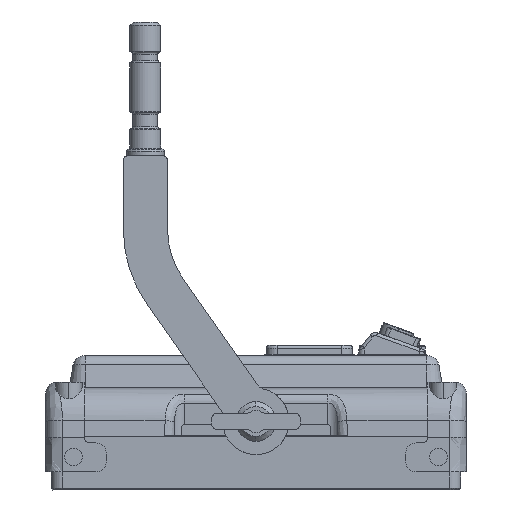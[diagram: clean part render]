
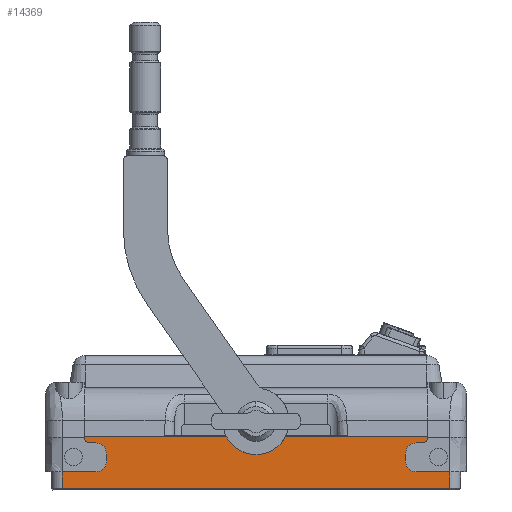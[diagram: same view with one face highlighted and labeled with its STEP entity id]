
A CAD part, left-side view. The second image highlights one B-rep face of the part: STEP entity #14369.
In plain terms, the highlighted planar face has unit normal (-1, 0, 0).
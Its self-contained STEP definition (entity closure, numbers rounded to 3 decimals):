
#531=DIRECTION('',(0.,1.,0.));
#532=VECTOR('',#531,30.);
#533=CARTESIAN_POINT('',(-340.,145.,-24.6));
#534=LINE('',#533,#532);
#556=DIRECTION('',(0.,0.,-1.));
#557=VECTOR('',#556,6.1);
#558=CARTESIAN_POINT('',(-340.,-135.,-8.5));
#559=LINE('',#558,#557);
#560=CARTESIAN_POINT('',(-340.,-145.,-14.6));
#561=DIRECTION('',(-1.,0.,0.));
#562=DIRECTION('',(0.,1.,0.));
#563=AXIS2_PLACEMENT_3D('',#560,#561,#562);
#565=DIRECTION('',(0.,-1.,0.));
#566=VECTOR('',#565,30.);
#567=CARTESIAN_POINT('',(-340.,-145.,-24.6));
#568=LINE('',#567,#566);
#569=DIRECTION('',(0.,1.,0.));
#570=VECTOR('',#569,350.);
#571=CARTESIAN_POINT('',(-340.,-175.,
-39.5));
#572=LINE('',#571,#570);
#573=DIRECTION('',(0.,0.,1.));
#574=VECTOR('',#573,14.9);
#575=CARTESIAN_POINT('',(-340.,175.,-39.5));
#576=LINE('',#575,#574);
#577=CARTESIAN_POINT('',(-340.,145.,-14.6));
#578=DIRECTION('',(-1.,0.,0.));
#579=DIRECTION('',(0.,0.,-1.));
#580=AXIS2_PLACEMENT_3D('',#577,#578,#579);
#582=CARTESIAN_POINT('',(-340.,145.,-8.5));
#583=DIRECTION('',(-1.,0.,0.));
#584=DIRECTION('',(0.,-1.,0.));
#585=AXIS2_PLACEMENT_3D('',#582,#583,#584);
#587=CARTESIAN_POINT('',(-340.,150.,6.5));
#588=DIRECTION('',(1.,0.,0.));
#589=DIRECTION('',(0.,0.,-1.));
#590=AXIS2_PLACEMENT_3D('',#587,#588,#589);
#592=DIRECTION('',(0.,0.,1.));
#593=VECTOR('',#592,0.873);
#594=CARTESIAN_POINT('',(-340.,155.,6.5));
#595=LINE('',#594,#593);
#596=CARTESIAN_POINT('',(-340.,-150.,6.5));
#597=DIRECTION('',(1.,0.,0.));
#598=DIRECTION('',(0.,-1.,0.));
#599=AXIS2_PLACEMENT_3D('',#596,#597,#598);
#601=DIRECTION('',(0.,1.,0.));
#602=VECTOR('',#601,5.);
#603=CARTESIAN_POINT('',(-340.,-150.,1.5));
#604=LINE('',#603,#602);
#605=CARTESIAN_POINT('',(-340.,-145.,-8.5));
#606=DIRECTION('',(-1.,0.,0.));
#607=DIRECTION('',(0.,0.,1.));
#608=AXIS2_PLACEMENT_3D('',#605,#606,#607);
#626=DIRECTION('',(0.,0.,1.));
#627=VECTOR('',#626,0.873);
#628=CARTESIAN_POINT('',(-340.,-155.,6.5));
#629=LINE('',#628,#627);
#657=DIRECTION('',(0.,1.,0.));
#658=VECTOR('',#657,310.);
#659=CARTESIAN_POINT('',(-340.,-155.,7.373));
#660=LINE('',#659,#658);
#3215=DIRECTION('',(0.,0.,-1.));
#3216=VECTOR('',#3215,6.1);
#3217=CARTESIAN_POINT('',(-340.,135.,-8.5));
#3218=LINE('',#3217,#3216);
#3231=DIRECTION('',(0.,-1.,0.));
#3232=VECTOR('',#3231,5.);
#3233=CARTESIAN_POINT('',(-340.,150.,1.5));
#3234=LINE('',#3233,#3232);
#10612=DIRECTION('',(0.,0.,1.));
#10613=VECTOR('',#10612,14.9);
#10614=CARTESIAN_POINT('',(-340.,-175.,
-39.5));
#10615=LINE('',#10614,#10613);
#11145=CARTESIAN_POINT('',(-340.,145.,-24.6));
#11146=VERTEX_POINT('',#11145);
#11147=CARTESIAN_POINT('',(-340.,175.,-24.6));
#11148=VERTEX_POINT('',#11147);
#11157=CARTESIAN_POINT('',(-340.,175.,-39.5));
#11158=VERTEX_POINT('',#11157);
#11165=CARTESIAN_POINT('',(-340.,-135.,-8.5));
#11166=CARTESIAN_POINT('',(-340.,-135.,-14.6));
#11167=VERTEX_POINT('',#11165);
#11168=VERTEX_POINT('',#11166);
#11169=CARTESIAN_POINT('',(-340.,-145.,-24.6));
#11170=VERTEX_POINT('',#11169);
#11171=CARTESIAN_POINT('',(-340.,-175.,-24.6));
#11172=VERTEX_POINT('',#11171);
#11173=CARTESIAN_POINT('',(-340.,-175.,
-39.5));
#11174=VERTEX_POINT('',#11173);
#11175=CARTESIAN_POINT('',(-340.,135.,-14.6));
#11176=VERTEX_POINT('',#11175);
#11177=CARTESIAN_POINT('',(-340.,135.,-8.5));
#11178=VERTEX_POINT('',#11177);
#11179=CARTESIAN_POINT('',(-340.,145.,1.5));
#11180=VERTEX_POINT('',#11179);
#11181=CARTESIAN_POINT('',(-340.,150.,1.5));
#11182=VERTEX_POINT('',#11181);
#11183=CARTESIAN_POINT('',(-340.,155.,6.5));
#11184=VERTEX_POINT('',#11183);
#11185=CARTESIAN_POINT('',(-340.,155.,7.373));
#11186=VERTEX_POINT('',#11185);
#11187=CARTESIAN_POINT('',(-340.,-155.,7.373));
#11188=VERTEX_POINT('',#11187);
#11189=CARTESIAN_POINT('',(-340.,-155.,6.5));
#11190=VERTEX_POINT('',#11189);
#11191=CARTESIAN_POINT('',(-340.,-150.,1.5));
#11192=VERTEX_POINT('',#11191);
#11193=CARTESIAN_POINT('',(-340.,-145.,1.5));
#11194=VERTEX_POINT('',#11193);
#14329=CARTESIAN_POINT('',(-340.,-175.,0.));
#14330=DIRECTION('',(-1.,0.,0.));
#14331=DIRECTION('',(0.,1.,0.));
#14332=AXIS2_PLACEMENT_3D('',#14329,#14330,#14331);
#14333=PLANE('',#14332);
#14335=ORIENTED_EDGE('',*,*,#14334,.T.);
#14337=ORIENTED_EDGE('',*,*,#14336,.T.);
#14338=ORIENTED_EDGE('',*,*,#14106,.T.);
#14340=ORIENTED_EDGE('',*,*,#14339,.F.);
#14342=ORIENTED_EDGE('',*,*,#14341,.T.);
#14343=ORIENTED_EDGE('',*,*,#14321,.T.);
#14344=ORIENTED_EDGE('',*,*,#14293,.F.);
#14346=ORIENTED_EDGE('',*,*,#14345,.T.);
#14348=ORIENTED_EDGE('',*,*,#14347,.F.);
#14350=ORIENTED_EDGE('',*,*,#14349,.T.);
#14352=ORIENTED_EDGE('',*,*,#14351,.F.);
#14354=ORIENTED_EDGE('',*,*,#14353,.T.);
#14356=ORIENTED_EDGE('',*,*,#14355,.T.);
#14358=ORIENTED_EDGE('',*,*,#14357,.F.);
#14360=ORIENTED_EDGE('',*,*,#14359,.F.);
#14362=ORIENTED_EDGE('',*,*,#14361,.T.);
#14364=ORIENTED_EDGE('',*,*,#14363,.T.);
#14366=ORIENTED_EDGE('',*,*,#14365,.T.);
#14367=EDGE_LOOP('',(#14335,#14337,#14338,#14340,#14342,#14343,#14344,#14346,
#14348,#14350,#14352,#14354,#14356,#14358,#14360,#14362,#14364,#14366));
#14368=FACE_OUTER_BOUND('',#14367,.F.);
#14369=ADVANCED_FACE('',(#14368),#14333,.T.);
#564=CIRCLE('',#563,10.);
#581=CIRCLE('',#580,10.);
#586=CIRCLE('',#585,10.);
#591=CIRCLE('',#590,5.);
#600=CIRCLE('',#599,5.);
#609=CIRCLE('',#608,10.);
#14106=EDGE_CURVE('',#11170,#11172,#568,.T.);
#14293=EDGE_CURVE('',#11146,#11148,#534,.T.);
#14321=EDGE_CURVE('',#11158,#11148,#576,.T.);
#14334=EDGE_CURVE('',#11167,#11168,#559,.T.);
#14336=EDGE_CURVE('',#11168,#11170,#564,.T.);
#14339=EDGE_CURVE('',#11174,#11172,#10615,.T.);
#14341=EDGE_CURVE('',#11174,#11158,#572,.T.);
#14345=EDGE_CURVE('',#11146,#11176,#581,.T.);
#14347=EDGE_CURVE('',#11178,#11176,#3218,.T.);
#14349=EDGE_CURVE('',#11178,#11180,#586,.T.);
#14351=EDGE_CURVE('',#11182,#11180,#3234,.T.);
#14353=EDGE_CURVE('',#11182,#11184,#591,.T.);
#14355=EDGE_CURVE('',#11184,#11186,#595,.T.);
#14357=EDGE_CURVE('',#11188,#11186,#660,.T.);
#14359=EDGE_CURVE('',#11190,#11188,#629,.T.);
#14361=EDGE_CURVE('',#11190,#11192,#600,.T.);
#14363=EDGE_CURVE('',#11192,#11194,#604,.T.);
#14365=EDGE_CURVE('',#11194,#11167,#609,.T.);
